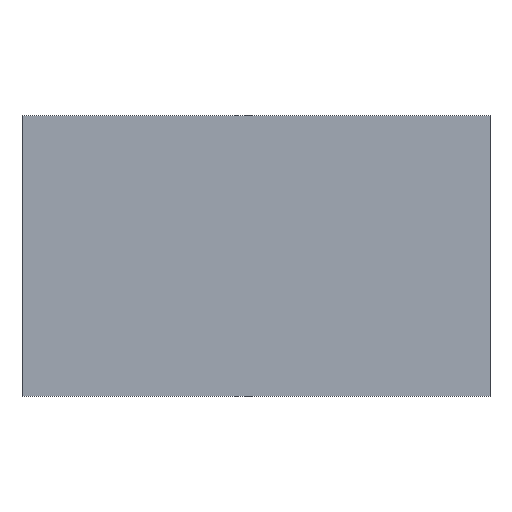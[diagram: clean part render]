
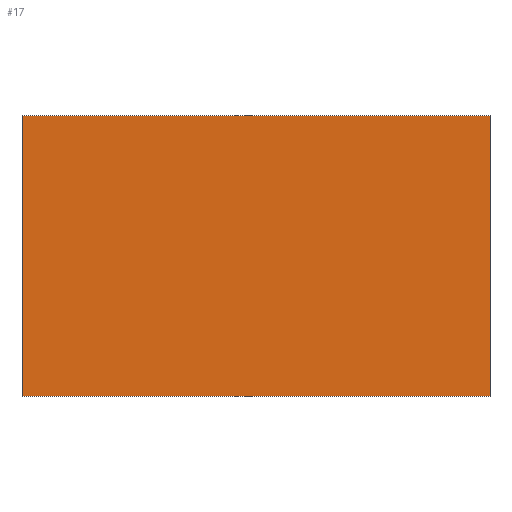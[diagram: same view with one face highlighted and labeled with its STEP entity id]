
A CAD part, front view. The second image highlights one B-rep face of the part: STEP entity #17.
In plain terms, the highlighted planar face has unit normal (0, -1, 0).
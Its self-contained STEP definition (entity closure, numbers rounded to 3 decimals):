
#17 = ADVANCED_FACE('',(#18),#32,.F.);
#18 = FACE_BOUND('',#19,.F.);
#19 = EDGE_LOOP('',(#20,#55,#83,#111));
#20 = ORIENTED_EDGE('',*,*,#21,.T.);
#21 = EDGE_CURVE('',#22,#24,#26,.T.);
#22 = VERTEX_POINT('',#23);
#23 = CARTESIAN_POINT('',(-10.,-370.,0.));
#24 = VERTEX_POINT('',#25);
#25 = CARTESIAN_POINT('',(-10.,-370.,12.));
#26 = SURFACE_CURVE('',#27,(#31,#43),.PCURVE_S1.);
#27 = LINE('',#28,#29);
#28 = CARTESIAN_POINT('',(-10.,-370.,0.));
#29 = VECTOR('',#30,1.);
#30 = DIRECTION('',(0.,0.,1.));
#31 = PCURVE('',#32,#37);
#32 = PLANE('',#33);
#33 = AXIS2_PLACEMENT_3D('',#34,#35,#36);
#34 = CARTESIAN_POINT('',(-10.,-370.,0.));
#35 = DIRECTION('',(0.,1.,0.));
#36 = DIRECTION('',(1.,0.,0.));
#37 = DEFINITIONAL_REPRESENTATION('',(#38),#42);
#38 = LINE('',#39,#40);
#39 = CARTESIAN_POINT('',(0.,0.));
#40 = VECTOR('',#41,1.);
#41 = DIRECTION('',(0.,-1.));
#42 = ( GEOMETRIC_REPRESENTATION_CONTEXT(2) 
PARAMETRIC_REPRESENTATION_CONTEXT() REPRESENTATION_CONTEXT('2D SPACE',''
  ) );
#43 = PCURVE('',#44,#49);
#44 = PLANE('',#45);
#45 = AXIS2_PLACEMENT_3D('',#46,#47,#48);
#46 = CARTESIAN_POINT('',(-10.,370.,0.));
#47 = DIRECTION('',(1.,0.,-0.));
#48 = DIRECTION('',(0.,-1.,0.));
#49 = DEFINITIONAL_REPRESENTATION('',(#50),#54);
#50 = LINE('',#51,#52);
#51 = CARTESIAN_POINT('',(740.,0.));
#52 = VECTOR('',#53,1.);
#53 = DIRECTION('',(0.,-1.));
#54 = ( GEOMETRIC_REPRESENTATION_CONTEXT(2) 
PARAMETRIC_REPRESENTATION_CONTEXT() REPRESENTATION_CONTEXT('2D SPACE',''
  ) );
#55 = ORIENTED_EDGE('',*,*,#56,.T.);
#56 = EDGE_CURVE('',#24,#57,#59,.T.);
#57 = VERTEX_POINT('',#58);
#58 = CARTESIAN_POINT('',(10.,-370.,12.));
#59 = SURFACE_CURVE('',#60,(#64,#71),.PCURVE_S1.);
#60 = LINE('',#61,#62);
#61 = CARTESIAN_POINT('',(-10.,-370.,12.));
#62 = VECTOR('',#63,1.);
#63 = DIRECTION('',(1.,0.,0.));
#64 = PCURVE('',#32,#65);
#65 = DEFINITIONAL_REPRESENTATION('',(#66),#70);
#66 = LINE('',#67,#68);
#67 = CARTESIAN_POINT('',(0.,-12.));
#68 = VECTOR('',#69,1.);
#69 = DIRECTION('',(1.,0.));
#70 = ( GEOMETRIC_REPRESENTATION_CONTEXT(2) 
PARAMETRIC_REPRESENTATION_CONTEXT() REPRESENTATION_CONTEXT('2D SPACE',''
  ) );
#71 = PCURVE('',#72,#77);
#72 = PLANE('',#73);
#73 = AXIS2_PLACEMENT_3D('',#74,#75,#76);
#74 = CARTESIAN_POINT('',(0.,0.,12.));
#75 = DIRECTION('',(0.,0.,1.));
#76 = DIRECTION('',(1.,0.,-0.));
#77 = DEFINITIONAL_REPRESENTATION('',(#78),#82);
#78 = LINE('',#79,#80);
#79 = CARTESIAN_POINT('',(-10.,-370.));
#80 = VECTOR('',#81,1.);
#81 = DIRECTION('',(1.,0.));
#82 = ( GEOMETRIC_REPRESENTATION_CONTEXT(2) 
PARAMETRIC_REPRESENTATION_CONTEXT() REPRESENTATION_CONTEXT('2D SPACE',''
  ) );
#83 = ORIENTED_EDGE('',*,*,#84,.F.);
#84 = EDGE_CURVE('',#85,#57,#87,.T.);
#85 = VERTEX_POINT('',#86);
#86 = CARTESIAN_POINT('',(10.,-370.,0.));
#87 = SURFACE_CURVE('',#88,(#92,#99),.PCURVE_S1.);
#88 = LINE('',#89,#90);
#89 = CARTESIAN_POINT('',(10.,-370.,0.));
#90 = VECTOR('',#91,1.);
#91 = DIRECTION('',(0.,0.,1.));
#92 = PCURVE('',#32,#93);
#93 = DEFINITIONAL_REPRESENTATION('',(#94),#98);
#94 = LINE('',#95,#96);
#95 = CARTESIAN_POINT('',(20.,0.));
#96 = VECTOR('',#97,1.);
#97 = DIRECTION('',(0.,-1.));
#98 = ( GEOMETRIC_REPRESENTATION_CONTEXT(2) 
PARAMETRIC_REPRESENTATION_CONTEXT() REPRESENTATION_CONTEXT('2D SPACE',''
  ) );
#99 = PCURVE('',#100,#105);
#100 = PLANE('',#101);
#101 = AXIS2_PLACEMENT_3D('',#102,#103,#104);
#102 = CARTESIAN_POINT('',(10.,-370.,0.));
#103 = DIRECTION('',(-1.,0.,0.));
#104 = DIRECTION('',(0.,1.,0.));
#105 = DEFINITIONAL_REPRESENTATION('',(#106),#110);
#106 = LINE('',#107,#108);
#107 = CARTESIAN_POINT('',(0.,0.));
#108 = VECTOR('',#109,1.);
#109 = DIRECTION('',(0.,-1.));
#110 = ( GEOMETRIC_REPRESENTATION_CONTEXT(2) 
PARAMETRIC_REPRESENTATION_CONTEXT() REPRESENTATION_CONTEXT('2D SPACE',''
  ) );
#111 = ORIENTED_EDGE('',*,*,#112,.F.);
#112 = EDGE_CURVE('',#22,#85,#113,.T.);
#113 = SURFACE_CURVE('',#114,(#118,#125),.PCURVE_S1.);
#114 = LINE('',#115,#116);
#115 = CARTESIAN_POINT('',(-10.,-370.,0.));
#116 = VECTOR('',#117,1.);
#117 = DIRECTION('',(1.,0.,0.));
#118 = PCURVE('',#32,#119);
#119 = DEFINITIONAL_REPRESENTATION('',(#120),#124);
#120 = LINE('',#121,#122);
#121 = CARTESIAN_POINT('',(0.,0.));
#122 = VECTOR('',#123,1.);
#123 = DIRECTION('',(1.,0.));
#124 = ( GEOMETRIC_REPRESENTATION_CONTEXT(2) 
PARAMETRIC_REPRESENTATION_CONTEXT() REPRESENTATION_CONTEXT('2D SPACE',''
  ) );
#125 = PCURVE('',#126,#131);
#126 = PLANE('',#127);
#127 = AXIS2_PLACEMENT_3D('',#128,#129,#130);
#128 = CARTESIAN_POINT('',(0.,0.,0.));
#129 = DIRECTION('',(0.,0.,1.));
#130 = DIRECTION('',(1.,0.,-0.));
#131 = DEFINITIONAL_REPRESENTATION('',(#132),#136);
#132 = LINE('',#133,#134);
#133 = CARTESIAN_POINT('',(-10.,-370.));
#134 = VECTOR('',#135,1.);
#135 = DIRECTION('',(1.,0.));
#136 = ( GEOMETRIC_REPRESENTATION_CONTEXT(2) 
PARAMETRIC_REPRESENTATION_CONTEXT() REPRESENTATION_CONTEXT('2D SPACE',''
  ) );
